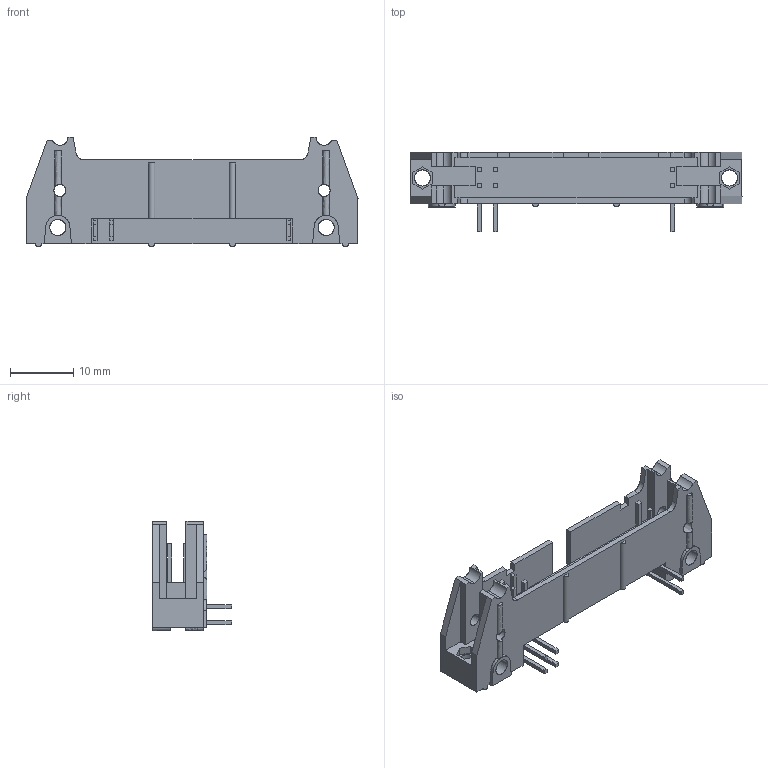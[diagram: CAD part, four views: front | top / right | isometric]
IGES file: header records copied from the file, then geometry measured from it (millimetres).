
Start section: Comment
Global section: file name: 3429-5003.igs; native system:  By Spatial Corp. IGES DAT; preprocessor: XIGES V1.0; author: Author; organization: Title; date: 20060119.101516; units: metre
Bounding box: 52.32 x 12.57 x 17.27 mm (x, y, z)
Surface area: 3849.7 mm2 (no closed solid volume)
Topology: 0 solids, 0 shells, 227 faces, 3050 edges, 3050 vertices
Faces by surface type: extrusion 177, revolution 50
